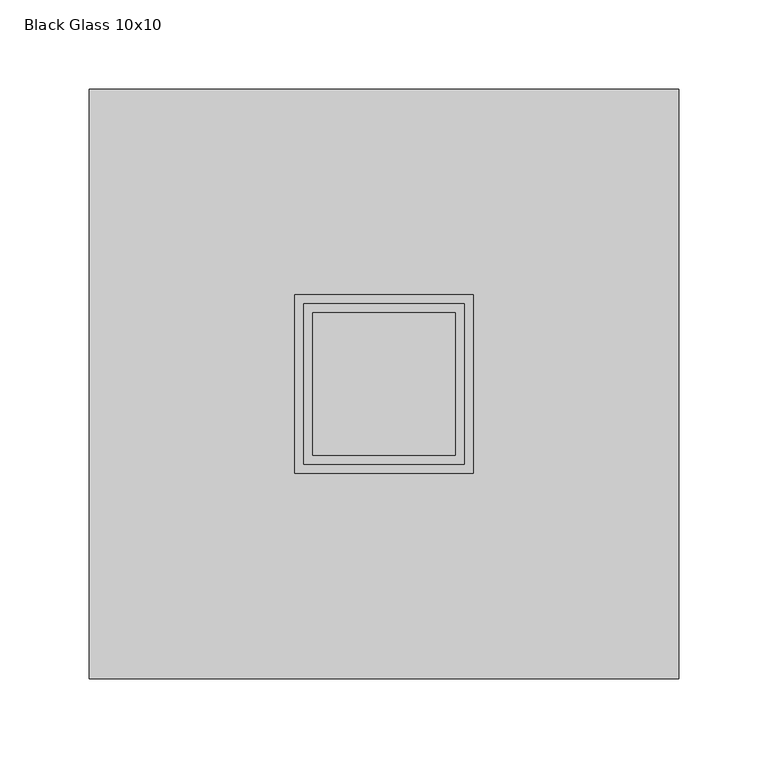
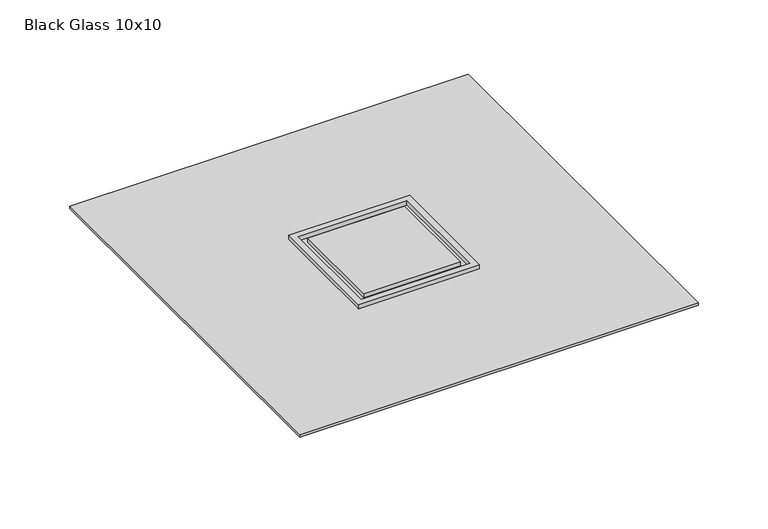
"""IFC4 building model written with IfcOpenShell, lengths in millimetres: sanitary terminal geometry, Z_DO_NOT_USE_NLRS_PF_52_UN_Aqua Jewels Quattro Complete_Easydrain : Black Glass 10x10."""

from ifc_helpers import new_model, si_unit, frame, origin, place, context, project, spatial, polyline, outline, extrude, source, transform, mapped, element, save


def black_glass_10x10_94a9755f(model_context):
    return source(origin(), model_context, "Body", "SweptSolid", [
        extrude(outline(polyline([(165.0, 165.0), (165.0, -165.0), (-165.0, -165.0), (-165.0, 165.0), (165.0, 165.0)])), frame((0.0, 0.0, -6.0), z_axis=(0.0, 0.0, 1.0), x_axis=(1.0, 0.0, 0.0)), (0.0, 0.0, 1.0), 2.0),
        extrude(outline(polyline([(50.0, 50.0), (50.0, -50.0), (-50.0, -50.0), (-50.0, 50.0), (50.0, 50.0)])), frame((0.0, 0.0, -25.0), z_axis=(0.0, 0.0, 1.0), x_axis=(1.0, 0.0, 0.0)), (0.0, 0.0, 1.0), 20.0),
        extrude(outline(polyline([(50.0, 50.0), (50.0, -50.0), (-50.0, -50.0), (-50.0, 50.0), (50.0, 50.0)]), holes=[polyline([(45.0, 45.0), (-45.0, 45.0), (-45.0, -45.0), (45.0, -45.0), (45.0, 45.0)])]), frame((0.0, 0.0, -5.0), z_axis=(0.0, 0.0, 1.0), x_axis=(1.0, 0.0, 0.0)), (0.0, 0.0, 1.0), 5.0),
        extrude(outline(polyline([(40.0, 40.0), (40.0, -40.0), (-40.0, -40.0), (-40.0, 40.0), (40.0, 40.0)])), frame((0.0, 0.0, -5.0), z_axis=(0.0, 0.0, 1.0), x_axis=(1.0, 0.0, 0.0)), (0.0, 0.0, 1.0), 5.0),
        extrude(outline(polyline([(80.0, 80.0), (80.0, -80.0), (-80.0, -80.0), (-80.0, 80.0), (80.0, 80.0)])), frame((0.0, 0.0, -7.0), z_axis=(0.0, 0.0, 1.0), x_axis=(1.0, 0.0, 0.0)), (0.0, 0.0, 1.0), 2.0),
    ])


if __name__ == "__main__":
    model = new_model("IFC4")
    model_context = context("Model", 3, world=origin())
    ifc_project = project(units=[si_unit("LENGTHUNIT", "METRE", prefix="MILLI")], contexts=[model_context])
    site = spatial("IfcSite", under=ifc_project)
    building = spatial("IfcBuilding", under=site)
    placement = place(None, origin())
    black_glass_10x10_shape = black_glass_10x10_94a9755f(model_context)
    element("IfcSanitaryTerminal", 1, ObjectType="Z_DO_NOT_USE_NLRS_PF_52_UN_Aqua Jewels Quattro Complete_Easydrain : Black Glass 10x10", at=placement, inside=building, context=model_context, shape_type="MappedRepresentation", body=[
        mapped(black_glass_10x10_shape, transform((0.0, 0.0, 0.0), x_axis=(1.0, 0.0, 0.0), y_axis=(0.0, 1.0, 0.0), z_axis=(0.0, 0.0, 1.0))),
    ])
    save(model, "model.ifc")
